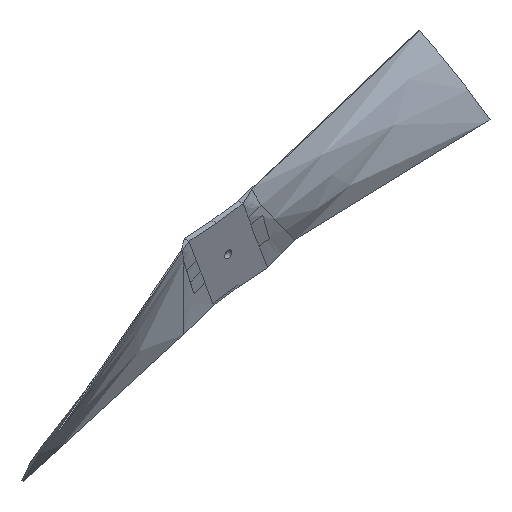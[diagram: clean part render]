
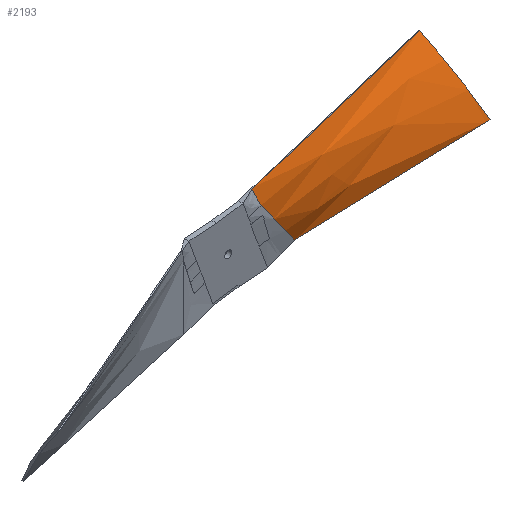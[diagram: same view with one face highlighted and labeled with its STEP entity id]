
A CAD part, isometric view. The second image highlights one B-rep face of the part: STEP entity #2193.
In plain terms, the highlighted free-form (B-spline) face has degree [3, 3] with [5, 4] control points.
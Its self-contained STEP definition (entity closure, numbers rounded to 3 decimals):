
#997=CARTESIAN_POINT('Vertex',(40.328,79.957,-18.729)) ;
#1001=CARTESIAN_POINT('Control Point',(21.002,79.894,8.074)) ;
#1002=CARTESIAN_POINT('Control Point',(23.933,78.823,3.502)) ;
#1003=CARTESIAN_POINT('Control Point',(30.215,77.902,-5.654)) ;
#1004=CARTESIAN_POINT('Control Point',(36.925,78.996,-14.456)) ;
#1005=CARTESIAN_POINT('Control Point',(40.328,79.957,-18.729)) ;
#1006=CARTESIAN_POINT('Vertex',(20.989,79.899,8.094)) ;
#1211=CARTESIAN_POINT('Vertex',(18.076,82.29,16.226)) ;
#1215=CARTESIAN_POINT('Control Point',(18.076,82.29,16.226)) ;
#1216=CARTESIAN_POINT('Control Point',(19.024,81.275,13.578)) ;
#1217=CARTESIAN_POINT('Control Point',(19.999,80.476,10.857)) ;
#1218=CARTESIAN_POINT('Control Point',(20.989,79.899,8.094)) ;
#2125=CARTESIAN_POINT('Control Point',(128.182,56.563,8.358)) ;
#2126=CARTESIAN_POINT('Control Point',(95.977,65.138,-1.571)) ;
#2127=CARTESIAN_POINT('Control Point',(63.771,73.714,-11.501)) ;
#2128=CARTESIAN_POINT('Control Point',(31.566,82.29,-21.43)) ;
#2129=CARTESIAN_POINT('Control Point',(125.723,59.937,15.221)) ;
#2130=CARTESIAN_POINT('Control Point',(93.618,66.618,5.012)) ;
#2131=CARTESIAN_POINT('Control Point',(61.513,73.299,-5.198)) ;
#2132=CARTESIAN_POINT('Control Point',(29.408,79.981,-15.407)) ;
#2133=CARTESIAN_POINT('Control Point',(120.988,67.846,28.44)) ;
#2134=CARTESIAN_POINT('Control Point',(88.932,71.098,18.093)) ;
#2135=CARTESIAN_POINT('Control Point',(56.876,74.349,7.745)) ;
#2136=CARTESIAN_POINT('Control Point',(24.821,77.601,-2.602)) ;
#2137=CARTESIAN_POINT('Control Point',(116.727,77.855,40.333)) ;
#2138=CARTESIAN_POINT('Control Point',(84.563,78.563,30.29)) ;
#2139=CARTESIAN_POINT('Control Point',(52.398,79.272,20.246)) ;
#2140=CARTESIAN_POINT('Control Point',(20.233,79.981,10.203)) ;
#2141=CARTESIAN_POINT('Control Point',(114.744,83.327,45.869)) ;
#2142=CARTESIAN_POINT('Control Point',(82.521,82.982,35.988)) ;
#2143=CARTESIAN_POINT('Control Point',(50.298,82.636,26.107)) ;
#2144=CARTESIAN_POINT('Control Point',(18.076,82.29,16.226)) ;
#2146=CARTESIAN_POINT('Control Point',(126.368,57.046,7.799)) ;
#2147=CARTESIAN_POINT('Control Point',(97.688,64.683,-1.044)) ;
#2148=CARTESIAN_POINT('Control Point',(69.008,72.32,-9.886)) ;
#2149=CARTESIAN_POINT('Control Point',(40.328,79.957,-18.729)) ;
#2150=CARTESIAN_POINT('Vertex',(126.368,57.046,7.799)) ;
#2154=CARTESIAN_POINT('Control Point',(128.182,56.563,8.358)) ;
#2155=CARTESIAN_POINT('Control Point',(127.578,56.724,8.172)) ;
#2156=CARTESIAN_POINT('Control Point',(126.973,56.885,7.985)) ;
#2157=CARTESIAN_POINT('Control Point',(126.368,57.046,7.799)) ;
#2158=CARTESIAN_POINT('Vertex',(128.182,56.563,8.358)) ;
#2162=CARTESIAN_POINT('Control Point',(128.182,56.563,8.358)) ;
#2163=CARTESIAN_POINT('Control Point',(125.723,59.937,15.221)) ;
#2164=CARTESIAN_POINT('Control Point',(120.988,67.846,28.439)) ;
#2165=CARTESIAN_POINT('Control Point',(116.728,77.852,40.33)) ;
#2166=CARTESIAN_POINT('Control Point',(114.745,83.324,45.865)) ;
#2167=CARTESIAN_POINT('Vertex',(114.744,83.327,45.869)) ;
#2171=CARTESIAN_POINT('Control Point',(114.744,83.327,45.869)) ;
#2172=CARTESIAN_POINT('Control Point',(83.125,82.988,36.173)) ;
#2173=CARTESIAN_POINT('Control Point',(51.507,82.649,26.478)) ;
#2174=CARTESIAN_POINT('Control Point',(19.888,82.31,16.782)) ;
#2175=CARTESIAN_POINT('Vertex',(19.888,82.31,16.782)) ;
#2179=CARTESIAN_POINT('Control Point',(19.888,82.31,16.782)) ;
#2180=CARTESIAN_POINT('Control Point',(19.284,82.303,16.597)) ;
#2181=CARTESIAN_POINT('Control Point',(18.68,82.297,16.412)) ;
#2182=CARTESIAN_POINT('Control Point',(18.076,82.29,16.226)) ;
#2185=ORIENTED_EDGE('',*,*,#1008,.F.) ;
#2186=ORIENTED_EDGE('',*,*,#2152,.T.) ;
#2187=ORIENTED_EDGE('',*,*,#2160,.T.) ;
#2188=ORIENTED_EDGE('',*,*,#2169,.T.) ;
#2189=ORIENTED_EDGE('',*,*,#2177,.T.) ;
#2190=ORIENTED_EDGE('',*,*,#2183,.T.) ;
#2191=ORIENTED_EDGE('',*,*,#1219,.F.) ;
#2193=ADVANCED_FACE('MANIFOLD_SOLID_BREP #111',(#2192),#2124,.T.) ;
#1000=B_SPLINE_CURVE_WITH_KNOTS('',3,(#1001,#1002,#1003,#1004,#1005),.UNSPECIFIED.,.F.,.U.,(4,1,4),(0.03,16.296,32.592),.UNSPECIFIED.) ;
#1214=B_SPLINE_CURVE_WITH_KNOTS('',3,(#1215,#1216,#1217,#1218),.UNSPECIFIED.,.F.,.U.,(4,4),(0.,8.864),.UNSPECIFIED.) ;
#2145=B_SPLINE_CURVE_WITH_KNOTS('',3,(#2146,#2147,#2148,#2149),.UNSPECIFIED.,.F.,.U.,(4,4),(1.919,92.952),.UNSPECIFIED.) ;
#2153=B_SPLINE_CURVE_WITH_KNOTS('',3,(#2154,#2155,#2156,#2157),.UNSPECIFIED.,.F.,.U.,(4,4),(0.,1.919),.UNSPECIFIED.) ;
#2161=B_SPLINE_CURVE_WITH_KNOTS('',3,(#2162,#2163,#2164,#2165,#2166),.UNSPECIFIED.,.F.,.U.,(4,1,4),(0.,21.872,43.739),.UNSPECIFIED.) ;
#2170=B_SPLINE_CURVE_WITH_KNOTS('',3,(#2171,#2172,#2173,#2174),.UNSPECIFIED.,.F.,.U.,(4,4),(0.,100.305),.UNSPECIFIED.) ;
#2178=B_SPLINE_CURVE_WITH_KNOTS('',3,(#2179,#2180,#2181,#2182),.UNSPECIFIED.,.F.,.U.,(4,4),(100.305,102.222),.UNSPECIFIED.) ;
#2124=B_SPLINE_SURFACE_WITH_KNOTS('',3,3,((#2125,#2126,#2127,#2128),(#2129,#2130,#2131,#2132),(#2133,#2134,#2135,#2136),(#2137,#2138,#2139,#2140),(#2141,#2142,#2143,#2144)),.UNSPECIFIED.,.F.,.F.,.U.,(4,1,4),(4,4),(0.,21.872,43.744),(0.,102.222),.UNSPECIFIED.) ;
#1008=EDGE_CURVE('',#998,#1007,#1000,.F.) ;
#1219=EDGE_CURVE('',#1007,#1212,#1214,.F.) ;
#2152=EDGE_CURVE('',#998,#2151,#2145,.F.) ;
#2160=EDGE_CURVE('',#2151,#2159,#2153,.F.) ;
#2169=EDGE_CURVE('',#2159,#2168,#2161,.T.) ;
#2177=EDGE_CURVE('',#2168,#2176,#2170,.T.) ;
#2183=EDGE_CURVE('',#2176,#1212,#2178,.T.) ;
#2184=EDGE_LOOP('',(#2185,#2186,#2187,#2188,#2189,#2190,#2191)) ;
#2192=FACE_OUTER_BOUND('',#2184,.T.) ;
#998=VERTEX_POINT('',#997) ;
#1007=VERTEX_POINT('',#1006) ;
#1212=VERTEX_POINT('',#1211) ;
#2151=VERTEX_POINT('',#2150) ;
#2159=VERTEX_POINT('',#2158) ;
#2168=VERTEX_POINT('',#2167) ;
#2176=VERTEX_POINT('',#2175) ;
